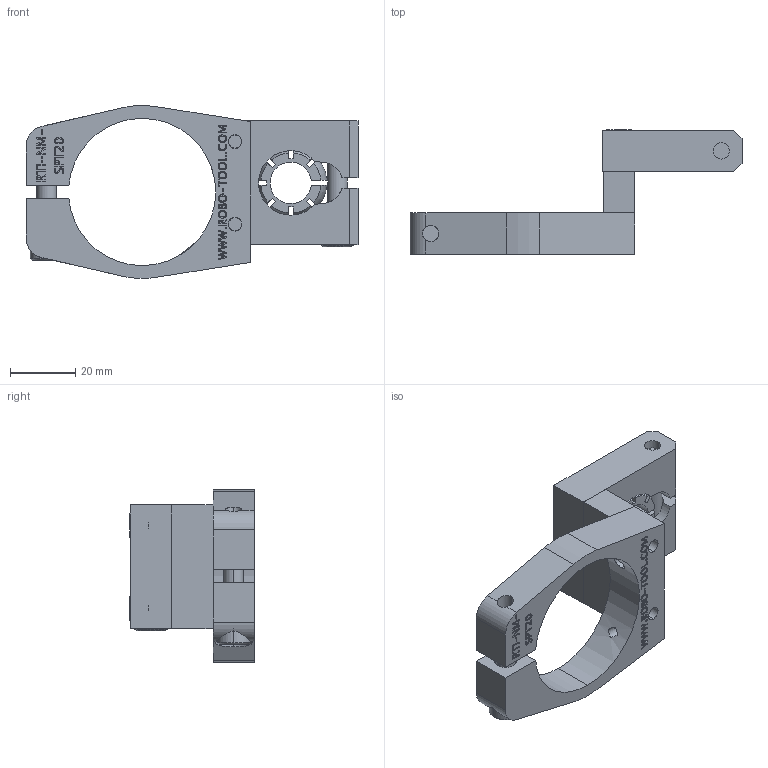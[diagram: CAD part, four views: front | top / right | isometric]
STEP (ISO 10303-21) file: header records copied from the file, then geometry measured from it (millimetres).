
FILE_DESCRIPTION (( 'STEP AP214' ), '1' );
FILE_NAME ('RTI-SNM-50-SPT20-50.STEP', '2013-10-22T14:51:11', ( 'user' ), ( '' ), 'SwSTEP 2.0', 'SolidWorks 2009', '' );
FILE_SCHEMA (( 'AUTOMOTIVE_DESIGN' ));
Length unit declared in the file: inch
Products named in the file (11): RTI-SMB-50; .875 OD_.502 ID_Swivel_Ball; RTI-NM-SPT20; RTI-NM-45-B; M6 WASHER; M6 S.H.C.S._M6x30mm; RTI-SM-SP-50; M5 WASHER; M5 S.H.C.S._M5x30mm; RTI-SNM-50-SPT20-50
Assembly tree (14 placements, depth 3):
  RTI-SNM-50-SPT20-50
    M5 S.H.C.S._M5x30mm  x2
    RTI-SM-SP-50
    M5 WASHER  x2
    RTI-SMB-50
      .875 OD_.502 ID_Swivel_Ball
      M6 WASHER
      M6 S.H.C.S._M6x30mm
      RTI-SMB-50
    RTI-NM-SPT20
      M6 WASHER
      M6 S.H.C.S._M6x30mm
      RTI-NM-45-B
Bounding box: 102.08 x 38.35 x 53.18 mm (x, y, z)
Volume: 41583.6 mm3; surface area: 24092.2 mm2
Topology: 12 solids, 12 shells, 1071 faces, 2773 edges, 1843 vertices
Faces by surface type: plane 648, bspline 313, cylinder 83, cone 17, torus 8, sphere 2
Entity records: 62436 total; most frequent: CARTESIAN_POINT 28094, ORIENTED_EDGE 5336, DIRECTION 3624, EDGE_CURVE 2668, LINE 1852, VECTOR 1852, VERTEX_POINT 1776, EDGE_LOOP 1166
